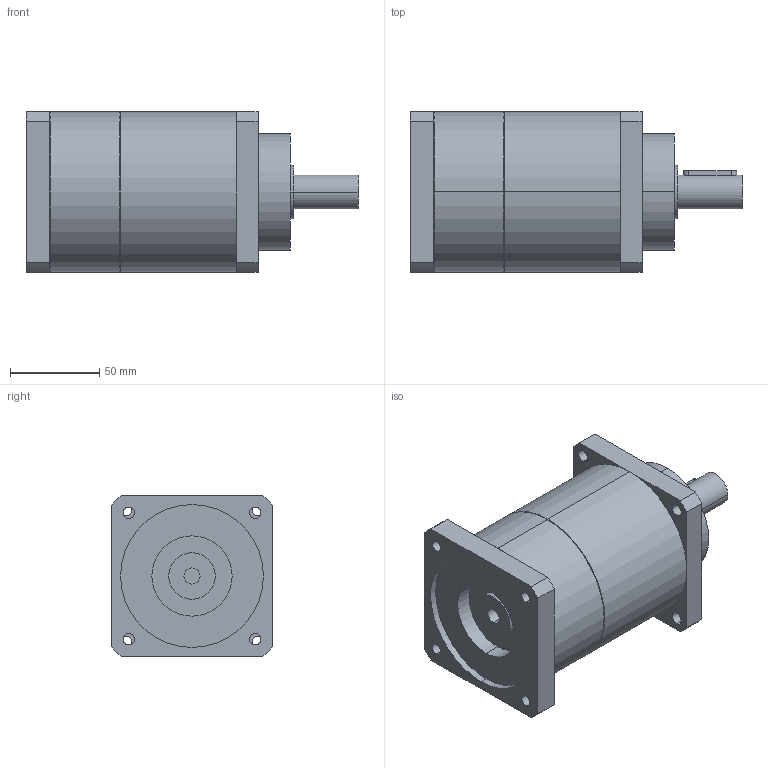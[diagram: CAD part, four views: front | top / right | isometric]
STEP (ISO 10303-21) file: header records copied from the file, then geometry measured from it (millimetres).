
FILE_DESCRIPTION(('CoCreate Modeling STEP Export'),'2;1');
FILE_NAME('GPT90_ig-9-12-16-20-25-28-35-40-50-70-100_19_B5T_9_P06.stp','2015-02-04T11:33:36',(''),(''),'CoCreate Modeling STEP processor for AP214 (Solid Model)','CoCreate Modeling 16.00C 25-Feb-2009 (C) Parametric Technology GmbH','');
FILE_SCHEMA(('AUTOMOTIVE_DESIGN { 1 0 10303 214 1 1 1 1 }'));
Length unit declared in the file: millimetre
Products named in the file (2): GPT90_ig-9-12-16-20-25-28-35-40-50-70-100_19_B5T_9_P06
Assembly tree (1 placements, depth 2):
  GPT90_ig-9-12-16-20-25-28-35-40-50-70-100_19_B5T_9_P06
    GPT90_ig-9-12-16-20-25-28-35-40-50-70-100_19_B5T_9_P06
Bounding box: 186 x 90 x 90 mm (x, y, z)
Volume: 901786.3 mm3; surface area: 69796.6 mm2
Topology: 1 solids, 1 shells, 77 faces, 206 edges, 141 vertices
Faces by surface type: cylinder 46, plane 27, cone 4
Entity records: 2596 total; most frequent: CARTESIAN_POINT 742, ORIENTED_EDGE 412, DIRECTION 324, EDGE_CURVE 206, VERTEX_POINT 141, AXIS2_PLACEMENT_3D 120, EDGE_LOOP 103, VECTOR 84
